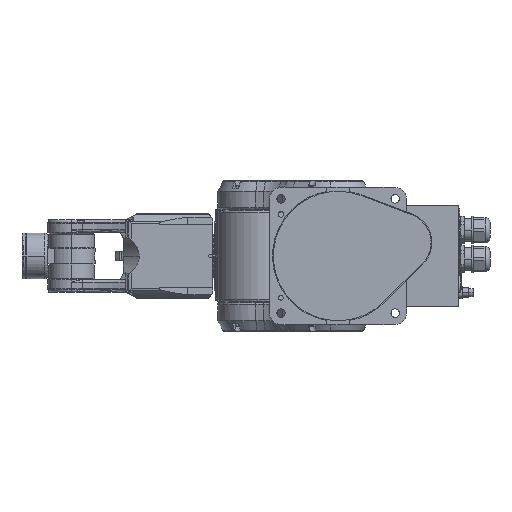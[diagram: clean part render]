
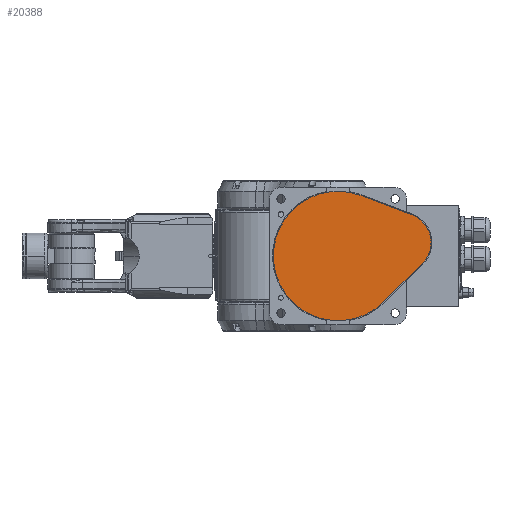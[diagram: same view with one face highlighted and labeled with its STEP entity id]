
A CAD part, front view. The second image highlights one B-rep face of the part: STEP entity #20388.
In plain terms, the highlighted planar face has unit normal (0, -1, 0).
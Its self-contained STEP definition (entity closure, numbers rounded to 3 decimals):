
#13370 = EDGE_CURVE( '', #16716, #20382, #37867, .T. );
#16716 = VERTEX_POINT( '', #41595 );
#20382 = VERTEX_POINT( '', #45666 );
#20388 = ADVANCED_FACE( '', ( #45673 ), #45674, .F. );
#21214 = VERTEX_POINT( '', #46592 );
#21460 = EDGE_CURVE( '', #30266, #23916, #46865, .T. );
#21488 = EDGE_CURVE( '', #23916, #21214, #46894, .T. );
#22674 = EDGE_CURVE( '', #20382, #30266, #48206, .T. );
#23916 = VERTEX_POINT( '', #49579 );
#28124 = EDGE_CURVE( '', #21214, #16716, #54280, .T. );
#30266 = VERTEX_POINT( '', #56669 );
#37867 = LINE( '', #65573, #65574 );
#41595 = CARTESIAN_POINT( '', ( 110.603, 3.5, -10.021 ) );
#45666 = CARTESIAN_POINT( '', ( 59.856, 3.5, -60.351 ) );
#45673 = FACE_OUTER_BOUND( '', #77248, .T. );
#45674 = PLANE( '', #77249 );
#46592 = CARTESIAN_POINT( '', ( 96.968, 3.5, 54.136 ) );
#46865 = CIRCLE( '', #78942, 85. );
#46894 = LINE( '', #78992, #78993 );
#48206 = CIRCLE( '', #81006, 85. );
#49579 = CARTESIAN_POINT( '', ( 30.137, 3.5, 79.478 ) );
#54280 = CIRCLE( '', #90049, 39. );
#56669 = CARTESIAN_POINT( '', ( -59.856, 3.5, 60.351 ) );
#65573 = CARTESIAN_POINT( '', ( 110.603, 3.5, -10.021 ) );
#65574 = VECTOR( '', #105726, 1. );
#77248 = EDGE_LOOP( '', ( #114864, #114865, #114866, #114867, #114868 ) );
#77249 = AXIS2_PLACEMENT_3D( '', #114869, #114870, #114871 );
#78942 = AXIS2_PLACEMENT_3D( '', #116323, #116324, #116325 );
#78992 = CARTESIAN_POINT( '', ( 30.137, 3.5, 79.478 ) );
#78993 = VECTOR( '', #116344, 1. );
#81006 = AXIS2_PLACEMENT_3D( '', #117790, #117791, #117792 );
#90049 = AXIS2_PLACEMENT_3D( '', #124916, #124917, #124918 );
#105726 = DIRECTION( '', ( -0.71, 0., -0.704 ) );
#114864 = ORIENTED_EDGE( '', *, *, #21488, .F. );
#114865 = ORIENTED_EDGE( '', *, *, #21460, .F. );
#114866 = ORIENTED_EDGE( '', *, *, #22674, .F. );
#114867 = ORIENTED_EDGE( '', *, *, #13370, .F. );
#114868 = ORIENTED_EDGE( '', *, *, #28124, .F. );
#114869 = CARTESIAN_POINT( '', ( 0., 3.5, 0. ) );
#114870 = DIRECTION( '', ( 0., 1., 0. ) );
#114871 = DIRECTION( '', ( 0., 0., 1. ) );
#116323 = CARTESIAN_POINT( '', ( 0., 3.5, 0. ) );
#116324 = DIRECTION( '', ( 0., 1., 0. ) );
#116325 = DIRECTION( '', ( 0.704, 0., -0.71 ) );
#116344 = DIRECTION( '', ( 0.935, 0., -0.355 ) );
#117790 = CARTESIAN_POINT( '', ( 0., 3.5, 0. ) );
#117791 = DIRECTION( '', ( 0., 1., 0. ) );
#117792 = DIRECTION( '', ( 0.704, 0., -0.71 ) );
#124916 = CARTESIAN_POINT( '', ( 83.14, 3.5, 17.67 ) );
#124917 = DIRECTION( '', ( 0., 1., 0. ) );
#124918 = DIRECTION( '', ( 0.355, 0., 0.935 ) );
